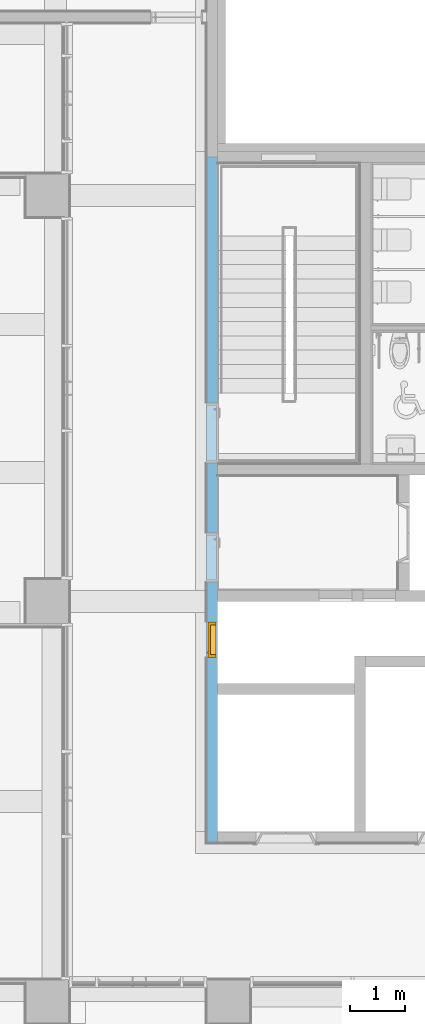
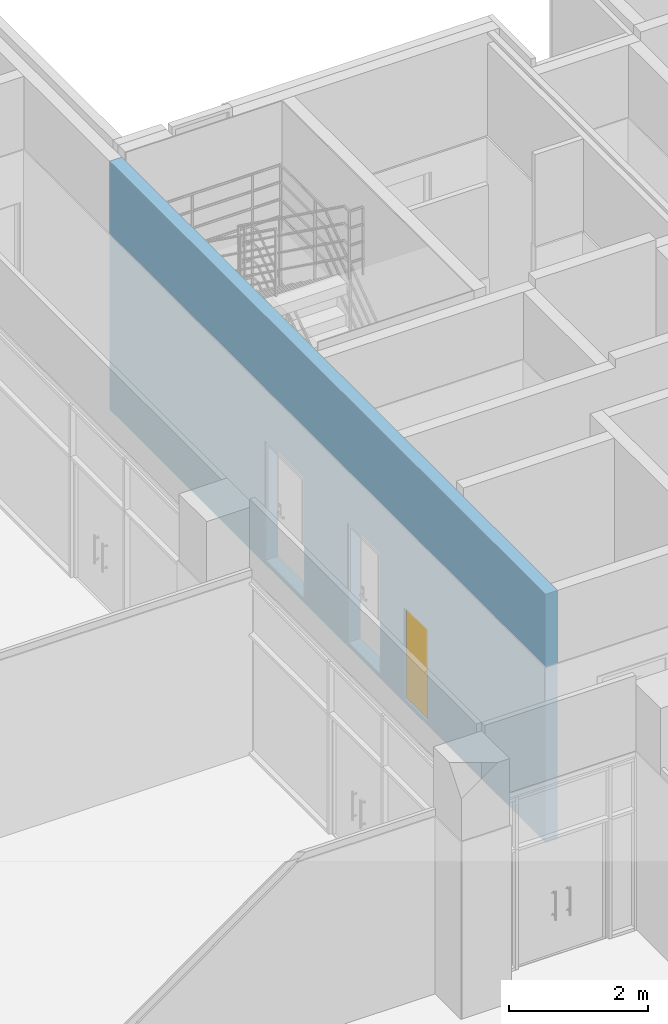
# One storey, part 54 of 74: 1 door, 3 openings, plus 1 element that does not belong to this part.
"""IFC2X3 building model written with IfcOpenShell, lengths in millimetres."""

from ifc_helpers import new_model, entity, si_unit, converted_unit, derived_unit, direction, frame, frame_2d, origin, place, context, subcontext, project, spatial, polyline, rectangle, extrude, clip, bounded_halfspace, faceted_brep, source, transform, mapped, material, material_list, layer, layer_set, layer_usage, type_object, type_shapes, element, fill, save


model = new_model("IFC2X3")

# Units and contexts
model_context = context("Model", 3, precision=0.01, world=origin(), true_north=direction((6.123031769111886e-17, 1.0)))
body_context = subcontext(model_context, "Body", "Model", "MODEL_VIEW")
ifc_project = project(units=[si_unit("LENGTHUNIT", "METRE", prefix="MILLI"), si_unit("AREAUNIT", "SQUARE_METRE"), si_unit("VOLUMEUNIT", "CUBIC_METRE"), converted_unit("PLANEANGLEUNIT", "DEGREE", entity("IfcRatioMeasure", 0.017453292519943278), si_unit("PLANEANGLEUNIT", "RADIAN"), dimensions=[0, 0, 0, 0, 0, 0, 0]), si_unit("MASSUNIT", "GRAM", prefix="KILO"), derived_unit("MASSDENSITYUNIT", [(si_unit("MASSUNIT", "GRAM", prefix="KILO"), 1), (si_unit("LENGTHUNIT", "METRE"), -3)]), derived_unit("MOMENTOFINERTIAUNIT", [(si_unit("LENGTHUNIT", "METRE"), 4)]), si_unit("TIMEUNIT", "SECOND"), si_unit("FREQUENCYUNIT", "HERTZ"), si_unit("THERMODYNAMICTEMPERATUREUNIT", "DEGREE_CELSIUS"), derived_unit("THERMALTRANSMITTANCEUNIT", [(si_unit("MASSUNIT", "GRAM", prefix="KILO"), 1), (si_unit("THERMODYNAMICTEMPERATUREUNIT", "KELVIN"), -1), (si_unit("TIMEUNIT", "SECOND"), -3)]), derived_unit("VOLUMETRICFLOWRATEUNIT", [(si_unit("LENGTHUNIT", "METRE"), 3), (si_unit("TIMEUNIT", "SECOND"), -1)]), derived_unit("MASSFLOWRATEUNIT", [(si_unit("MASSUNIT", "GRAM", prefix="KILO"), 1), (si_unit("TIMEUNIT", "SECOND"), -1)]), derived_unit("ROTATIONALFREQUENCYUNIT", [(si_unit("TIMEUNIT", "SECOND"), -1)]), si_unit("ELECTRICCURRENTUNIT", "AMPERE"), si_unit("ELECTRICVOLTAGEUNIT", "VOLT"), si_unit("POWERUNIT", "WATT"), si_unit("FORCEUNIT", "NEWTON", prefix="KILO"), si_unit("ILLUMINANCEUNIT", "LUX"), si_unit("LUMINOUSFLUXUNIT", "LUMEN"), si_unit("LUMINOUSINTENSITYUNIT", "CANDELA"), derived_unit("USERDEFINED", [(si_unit("MASSUNIT", "GRAM", prefix="KILO"), -1), (si_unit("LENGTHUNIT", "METRE"), -2), (si_unit("TIMEUNIT", "SECOND"), 3), (si_unit("LUMINOUSFLUXUNIT", "LUMEN"), 1)]), derived_unit("SOUNDPOWERUNIT", [(si_unit("MASSUNIT", "GRAM", prefix="KILO"), 1), (si_unit("LENGTHUNIT", "METRE"), 2), (si_unit("TIMEUNIT", "SECOND"), -3)]), derived_unit("SOUNDPRESSUREUNIT", [(si_unit("MASSUNIT", "GRAM", prefix="KILO"), 1), (si_unit("LENGTHUNIT", "METRE"), -1), (si_unit("TIMEUNIT", "SECOND"), -2)]), derived_unit("LINEARVELOCITYUNIT", [(si_unit("LENGTHUNIT", "METRE"), 1), (si_unit("TIMEUNIT", "SECOND"), -1)]), si_unit("PRESSUREUNIT", "PASCAL"), derived_unit("USERDEFINED", [(si_unit("LENGTHUNIT", "METRE"), -2), (si_unit("MASSUNIT", "GRAM", prefix="KILO"), 1), (si_unit("TIMEUNIT", "SECOND"), -2)]), derived_unit("LINEARFORCEUNIT", [(si_unit("MASSUNIT", "GRAM", prefix="KILO"), 1), (si_unit("LENGTHUNIT", "METRE"), 1), (si_unit("TIMEUNIT", "SECOND"), -2), (si_unit("LENGTHUNIT", "METRE"), -1)]), derived_unit("PLANARFORCEUNIT", [(si_unit("MASSUNIT", "GRAM", prefix="KILO"), 1), (si_unit("LENGTHUNIT", "METRE"), 1), (si_unit("TIMEUNIT", "SECOND"), -2), (si_unit("LENGTHUNIT", "METRE"), -2)])], contexts=[model_context])

# Site, building, storey
site_placement = place(None, frame((-14167.972527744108, -657.2125860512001, 0.0)))
site = spatial("IfcSite", under=ifc_project, at=site_placement, Name="Default", CompositionType="ELEMENT")
building_placement = place(site_placement, origin())
building = spatial("IfcBuilding", under=site, at=building_placement, Name="Sample Building", CompositionType="ELEMENT")
storey_placement = place(building_placement, frame((0.0, 0.0, 4800.0)))
storey = spatial("IfcBuildingStorey", under=building, at=storey_placement, Name="지상 2층", CompositionType="ELEMENT", Elevation=4800.000000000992)

# Wall, openings, door
ifc_material_1 = material(Name="KBIMS-콘크리트")
ifc_layer = layer(ifc_material_1, 200.0)
ifc_layer_set = layer_set([ifc_layer], Name="기본 벽:WA111-철근콘크리트구조 벽 200mm_CW1")
ifc_layer_usage = layer_usage(ifc_layer_set, "AXIS2", "NEGATIVE", 100.0)
wall_type = type_object("IfcWallType", Name="기본 벽:WA111-철근콘크리트구조 벽 200mm_CW1", PredefinedType="STANDARD", material=ifc_layer_set)
wall_placement = place(storey_placement, frame((30167.96376153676, 15553.30294707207, -1.9340006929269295e-09), z_axis=(0.0, 0.0, 1.0), x_axis=(0.0, 1.0, 0.0)))
wall = element("IfcWallStandardCase", 1, at=wall_placement, inside=storey, type_object=wall_type, material=ifc_layer_usage, Name="기본 벽:WA111-철근콘크리트구조 벽 200mm_CW1", ObjectType="기본 벽:WA111-철근콘크리트구조 벽 200mm_CW1", context=body_context, shape_type="Clipping", body=[
    clip(extrude(rectangle(XDim=12503.909360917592, YDim=200.00000000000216, at=frame_2d((6251.954680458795, -2.1671553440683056e-12), x_axis=(-1.0, 0.0))), origin(), (0.0, 0.0, 1.0), 4350.000000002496), bounded_halfspace(frame((6903.90936425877, -100.0, 4350.0), z_axis=(0.0, 0.0, -1.0), x_axis=(0.0, -1.0, 0.0)), True, frame((6903.90936425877, -100.0, 4350.0), z_axis=(0.0, 0.0, -1.0), x_axis=(0.0, -1.0, 0.0)), polyline([(0.0, 0.0), (0.0, 60960.0), (0.0, 701040.0), (0.0, 762000.0), (0.0, 2042160.0049346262), (0.0, 2043351.574226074), (0.0, 2104311.5742260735), (-60960.0, 2104311.574226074), (-60960.0, 2042159.9107361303), (-60960.0, 822959.9068200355), (-60960.0, 701039.9068200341), (-60960.0, -1706880.0), (0.0, -1706880.0), (0.0, 0.0)]))),
])
opening_1_placement = place(wall_placement, frame((5653.874678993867, 100.0, 80.0)))
element("IfcOpeningElement", 2, at=opening_1_placement, cuts=wall, Name="DR111-외여닫이문(철재, 일반):DR111-외여닫이문(철재, 일반) 900x2100mm:1", ObjectType="Opening", context=body_context, shape_type="SweptSolid", body=[
    extrude(rectangle(XDim=2099.999999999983, YDim=900.0000000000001, at=frame_2d((1049.999999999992, 450.00000000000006), x_axis=(1.0, 0.0))), frame((0.0, 0.0, 0.0), z_axis=(0.0, -1.0, 0.0), x_axis=(0.0, 0.0, 1.0)), (0.0, 0.0, 1.0), 200.0),
])
opening_2_placement = place(wall_placement, frame((8023.874680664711, 100.0, 80.0)))
element("IfcOpeningElement", 3, at=opening_2_placement, cuts=wall, Name="DR111-외여닫이문(철재, 일반):DR111-외여닫이문(철재, 일반) 1100x2100mm 2:1", ObjectType="Opening", context=body_context, shape_type="SweptSolid", body=[
    extrude(rectangle(XDim=2099.999999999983, YDim=1100.0, at=frame_2d((1049.9999999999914, 550.0), x_axis=(1.0, 0.0))), frame((0.0, 0.0, 0.0), z_axis=(0.0, -1.0, 0.0), x_axis=(0.0, 0.0, 1.0)), (0.0, 0.0, 1.0), 200.0),
])
opening_3_placement = place(wall_placement, frame((3378.8747316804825, -100.0, 80.0)))
opening_3 = element("IfcOpeningElement", 4, at=opening_3_placement, cuts=wall, Name="DR872-샤프트 점검구(스테인리스 스틸):DR872-샤프트 점검구(스테인리스 스틸)_650x1600:1", ObjectType="Opening", context=body_context, shape_type="SweptSolid", body=[
    extrude(rectangle(XDim=1600.0, YDim=649.9999999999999, at=frame_2d((800.0, 324.99999999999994), x_axis=(1.0, 0.0))), frame((0.0, 0.0, 0.0), z_axis=(0.0, 1.0, 0.0), x_axis=(0.0, 0.0, 1.0)), (0.0, 0.0, 1.0), 200.0),
])
ifc_material_2 = material(Name="KBIMS-스테인리스 스틸_도금")
ifc_material_list = material_list([ifc_material_2, ifc_material_2, ifc_material_2, ifc_material_2])
door_style = type_object("IfcDoorStyle", Name="DR872-샤프트 점검구(스테인리스 스틸):DR872-샤프트 점검구(스테인리스 스틸)_650x1600", ConstructionType="NOTDEFINED", OperationType="SINGLE_SWING_LEFT", ParameterTakesPrecedence=False, Sizeable=False, material=ifc_material_list)
shared_shape = source(origin(), body_context, "Body", "Brep", [
    faceted_brep([(105.0, 125.0, 782.6794919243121), (109.14213562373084, 125.0, 785.85786437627), (102.50000000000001, 125.0, 787.0096189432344), (98.88228567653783, 125.0, 785.5111126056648), (100.17638090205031, 125.0, 780.6814834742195), (105.60660171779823, 125.0, 789.3933982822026), (112.32050807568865, 125.0, 790.0), (107.99038105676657, 125.0, 792.5000000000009), (109.488887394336, 125.0, 796.1177143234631), (114.31851652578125, 125.0, 794.8236190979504), (110.0, 125.0, 800.0), (115.0, 125.0, 800.0), (109.48888739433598, 125.0, 803.8822856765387), (114.31851652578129, 125.0, 805.1763809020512), (107.99038105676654, 125.0, 807.5000000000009), (112.32050807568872, 125.0, 810.0), (105.60660171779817, 125.0, 810.6066017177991), (109.14213562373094, 125.0, 814.1421356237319), (102.49999999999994, 125.0, 812.9903810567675), (105.0, 125.0, 817.3205080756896), (98.88228567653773, 125.0, 814.4888873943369), (100.17638090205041, 125.0, 819.3185165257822), (95.0, 125.0, 815.0), (95.0, 125.0, 820.0), (91.11771432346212, 125.0, 814.4888873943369), (89.8236190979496, 125.0, 819.3185165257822), (87.49999999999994, 125.0, 812.9903810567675), (85.0, 125.0, 817.3205080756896), (84.39339828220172, 125.0, 810.6066017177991), (80.85786437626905, 125.0, 814.142135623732), (82.00961894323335, 125.0, 807.5000000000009), (77.67949192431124, 125.0, 810.0), (75.6814834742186, 125.0, 805.1763809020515), (80.51111260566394, 125.0, 803.8822856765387), (75.0, 125.0, 800.0), (80.0, 125.0, 800.0), (75.68148347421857, 125.0, 794.8236190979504), (80.51111260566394, 125.0, 796.117714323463), (77.67949192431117, 125.0, 790.0), (82.00961894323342, 125.0, 792.5000000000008), (80.85786437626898, 125.0, 785.85786437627), (84.39339828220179, 125.0, 789.3933982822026), (85.0, 125.0, 782.6794919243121), (87.50000000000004, 125.0, 787.0096189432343), (89.8236190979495, 125.0, 780.6814834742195), (91.11771432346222, 125.0, 785.5111126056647), (95.0, 125.0, 780.0), (95.0, 125.0, 785.0), (105.0, 130.0, 817.3205080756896), (109.14213562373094, 130.0, 814.1421356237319), (102.49999999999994, 130.0, 812.9903810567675), (98.88228567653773, 130.0, 814.4888873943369), (100.17638090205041, 130.0, 819.3185165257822), (105.60660171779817, 130.0, 810.6066017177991), (112.32050807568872, 130.0, 810.0), (107.99038105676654, 130.0, 807.5000000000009), (109.48888739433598, 130.0, 803.8822856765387), (114.31851652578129, 130.0, 805.1763809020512), (110.0, 130.0, 800.0), (115.0, 130.0, 800.0), (109.488887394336, 130.0, 796.1177143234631), (114.31851652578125, 130.0, 794.8236190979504), (107.99038105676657, 130.0, 792.5000000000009), (112.32050807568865, 130.0, 790.0), (105.60660171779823, 130.0, 789.3933982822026), (109.14213562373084, 130.0, 785.85786437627), (102.50000000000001, 130.0, 787.0096189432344), (105.0, 130.0, 782.6794919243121), (98.88228567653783, 130.0, 785.5111126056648), (100.17638090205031, 130.0, 780.6814834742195), (95.0, 130.0, 785.0), (95.0, 130.0, 780.0), (91.11771432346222, 130.0, 785.5111126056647), (89.8236190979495, 130.0, 780.6814834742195), (87.50000000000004, 130.0, 787.0096189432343), (85.0, 130.0, 782.6794919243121), (84.39339828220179, 130.0, 789.3933982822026), (80.85786437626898, 130.0, 785.85786437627), (82.00961894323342, 130.0, 792.5000000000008), (77.67949192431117, 130.0, 790.0), (75.68148347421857, 130.0, 794.8236190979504), (80.51111260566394, 130.0, 796.117714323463), (75.0, 130.0, 800.0), (80.0, 130.0, 800.0), (75.6814834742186, 130.0, 805.1763809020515), (80.51111260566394, 130.0, 803.8822856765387), (77.67949192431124, 130.0, 810.0), (82.00961894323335, 130.0, 807.5000000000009), (80.85786437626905, 130.0, 814.142135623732), (84.39339828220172, 130.0, 810.6066017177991), (85.0, 130.0, 817.3205080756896), (87.49999999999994, 130.0, 812.9903810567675), (89.8236190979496, 130.0, 819.3185165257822), (91.11771432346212, 130.0, 814.4888873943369), (95.0, 130.0, 820.0), (95.0, 130.0, 815.0)], [[[0, 1, 2]], [[0, 2, 3]], [[3, 4, 0]], [[2, 1, 5]], [[6, 5, 1]], [[7, 5, 6]], [[8, 7, 6]], [[8, 6, 9]], [[8, 9, 10]], [[10, 9, 11]], [[12, 10, 11]], [[12, 11, 13]], [[14, 12, 13]], [[14, 13, 15]], [[16, 14, 15]], [[15, 17, 16]], [[17, 18, 16]], [[18, 17, 19]], [[18, 19, 20]], [[21, 20, 19]], [[20, 21, 22]], [[22, 21, 23]], [[23, 24, 22]], [[24, 23, 25]], [[24, 25, 26]], [[27, 26, 25]], [[27, 28, 26]], [[27, 29, 28]], [[30, 28, 29]], [[31, 30, 29]], [[32, 30, 31]], [[33, 30, 32]], [[33, 32, 34]], [[34, 35, 33]], [[36, 35, 34]], [[36, 37, 35]], [[37, 36, 38]], [[39, 37, 38]], [[39, 38, 40]], [[39, 40, 41]], [[40, 42, 41]], [[41, 42, 43]], [[43, 42, 44]], [[44, 45, 43]], [[46, 45, 44]], [[4, 47, 46]], [[45, 46, 47]], [[4, 3, 47]], [[48, 49, 50]], [[48, 50, 51]], [[51, 52, 48]], [[50, 49, 53]], [[54, 53, 49]], [[55, 53, 54]], [[56, 55, 54]], [[56, 54, 57]], [[56, 57, 58]], [[58, 57, 59]], [[60, 58, 59]], [[60, 59, 61]], [[62, 60, 61]], [[62, 61, 63]], [[64, 62, 63]], [[63, 65, 64]], [[65, 66, 64]], [[66, 65, 67]], [[66, 67, 68]], [[69, 68, 67]], [[68, 69, 70]], [[70, 69, 71]], [[71, 72, 70]], [[72, 71, 73]], [[72, 73, 74]], [[75, 74, 73]], [[75, 76, 74]], [[75, 77, 76]], [[78, 76, 77]], [[79, 78, 77]], [[80, 78, 79]], [[81, 78, 80]], [[81, 80, 82]], [[82, 83, 81]], [[84, 83, 82]], [[84, 85, 83]], [[85, 84, 86]], [[87, 85, 86]], [[87, 86, 88]], [[87, 88, 89]], [[88, 90, 89]], [[89, 90, 91]], [[91, 90, 92]], [[92, 93, 91]], [[94, 93, 92]], [[52, 95, 94]], [[93, 94, 95]], [[52, 51, 95]], [[10, 58, 60, 8]], [[8, 60, 62, 7]], [[2, 5, 64, 66]], [[62, 64, 5, 7]], [[3, 2, 66, 68]], [[70, 47, 3, 68]], [[45, 72, 74, 43]], [[43, 74, 76, 41]], [[37, 39, 78, 81]], [[76, 78, 39, 41]], [[35, 37, 81, 83]], [[45, 47, 70, 72]], [[35, 83, 85, 33]], [[33, 85, 87, 30]], [[26, 28, 89, 91]], [[87, 89, 28, 30]], [[24, 26, 91, 93]], [[95, 22, 24, 93]], [[20, 51, 50, 18]], [[18, 50, 53, 16]], [[12, 14, 55, 56]], [[53, 55, 14, 16]], [[10, 12, 56, 58]], [[20, 22, 95, 51]], [[57, 13, 11, 59]], [[54, 15, 13, 57]], [[19, 17, 49, 48]], [[54, 49, 17, 15]], [[21, 19, 48, 52]], [[23, 21, 52, 94]], [[92, 25, 23, 94]], [[90, 27, 25, 92]], [[31, 29, 88, 86]], [[90, 88, 29, 27]], [[32, 31, 86, 84]], [[34, 32, 84, 82]], [[80, 36, 34, 82]], [[79, 38, 36, 80]], [[42, 40, 77, 75]], [[79, 77, 40, 38]], [[44, 42, 75, 73]], [[46, 44, 73, 71]], [[69, 4, 46, 71]], [[67, 0, 4, 69]], [[6, 1, 65, 63]], [[67, 65, 1, 0]], [[9, 6, 63, 61]], [[11, 9, 61, 59]]]),
    faceted_brep([(85.0, 180.0, 782.6794919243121), (80.85786437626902, 180.0, 785.85786437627), (87.4999999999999, 180.0, 787.0096189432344), (91.11771432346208, 180.0, 785.5111126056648), (89.82361909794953, 180.0, 780.6814834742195), (84.39339828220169, 180.0, 789.3933982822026), (77.6794919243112, 180.0, 790.0), (82.00961894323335, 180.0, 792.5000000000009), (80.51111260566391, 180.0, 796.1177143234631), (75.6814834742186, 180.0, 794.8236190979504), (80.0, 180.0, 800.0), (75.0, 180.0, 800.0), (80.51111260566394, 180.0, 803.8822856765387), (75.68148347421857, 180.0, 805.1763809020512), (82.00961894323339, 180.0, 807.5000000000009), (77.67949192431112, 180.0, 810.0), (84.39339828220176, 180.0, 810.6066017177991), (80.85786437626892, 180.0, 814.1421356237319), (87.49999999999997, 180.0, 812.9903810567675), (85.0, 180.0, 817.3205080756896), (91.11771432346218, 180.0, 814.4888873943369), (89.82361909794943, 180.0, 819.3185165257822), (95.0, 180.0, 815.0), (95.0, 180.0, 820.0), (98.8822856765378, 180.0, 814.4888873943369), (100.17638090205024, 180.0, 819.3185165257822), (102.49999999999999, 180.0, 812.9903810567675), (105.0, 180.0, 817.3205080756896), (105.6066017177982, 180.0, 810.6066017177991), (109.1421356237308, 180.0, 814.142135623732), (107.99038105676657, 180.0, 807.5000000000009), (112.32050807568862, 180.0, 810.0), (114.31851652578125, 180.0, 805.1763809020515), (109.48888739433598, 180.0, 803.8822856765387), (115.0, 180.0, 800.0), (110.0, 180.0, 800.0), (114.31851652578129, 180.0, 794.8236190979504), (109.48888739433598, 180.0, 796.117714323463), (112.32050807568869, 180.0, 790.0), (107.9903810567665, 180.0, 792.5000000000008), (109.14213562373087, 180.0, 785.85786437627), (105.60660171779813, 180.0, 789.3933982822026), (105.0, 180.0, 782.6794919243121), (102.49999999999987, 180.0, 787.0096189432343), (100.17638090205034, 180.0, 780.6814834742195), (98.8822856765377, 180.0, 785.5111126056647), (95.0, 180.0, 780.0), (95.0, 180.0, 785.0), (85.0, 175.0, 817.3205080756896), (80.85786437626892, 175.0, 814.1421356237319), (87.49999999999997, 175.0, 812.9903810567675), (91.11771432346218, 175.0, 814.4888873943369), (89.82361909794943, 175.0, 819.3185165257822), (84.39339828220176, 175.0, 810.6066017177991), (77.67949192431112, 175.0, 810.0), (82.00961894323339, 175.0, 807.5000000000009), (80.51111260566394, 175.0, 803.8822856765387), (75.68148347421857, 175.0, 805.1763809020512), (80.0, 175.0, 800.0), (75.0, 175.0, 800.0), (80.51111260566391, 175.0, 796.1177143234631), (75.6814834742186, 175.0, 794.8236190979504), (82.00961894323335, 175.0, 792.5000000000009), (77.6794919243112, 175.0, 790.0), (84.39339828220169, 175.0, 789.3933982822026), (80.85786437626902, 175.0, 785.85786437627), (87.4999999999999, 175.0, 787.0096189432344), (85.0, 175.0, 782.6794919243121), (91.11771432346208, 175.0, 785.5111126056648), (89.82361909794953, 175.0, 780.6814834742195), (95.0, 175.0, 785.0), (95.0, 175.0, 780.0), (98.8822856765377, 175.0, 785.5111126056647), (100.17638090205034, 175.0, 780.6814834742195), (102.49999999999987, 175.0, 787.0096189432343), (105.0, 175.0, 782.6794919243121), (105.60660171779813, 175.0, 789.3933982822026), (109.14213562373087, 175.0, 785.85786437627), (107.9903810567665, 175.0, 792.5000000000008), (112.32050807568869, 175.0, 790.0), (114.31851652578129, 175.0, 794.8236190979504), (109.48888739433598, 175.0, 796.117714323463), (115.0, 175.0, 800.0), (110.0, 175.0, 800.0), (114.31851652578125, 175.0, 805.1763809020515), (109.48888739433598, 175.0, 803.8822856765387), (112.32050807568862, 175.0, 810.0), (107.99038105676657, 175.0, 807.5000000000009), (109.1421356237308, 175.0, 814.142135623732), (105.6066017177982, 175.0, 810.6066017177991), (105.0, 175.0, 817.3205080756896), (102.49999999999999, 175.0, 812.9903810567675), (100.17638090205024, 175.0, 819.3185165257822), (98.8822856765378, 175.0, 814.4888873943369), (95.0, 175.0, 820.0), (95.0, 175.0, 815.0)], [[[0, 1, 2]], [[0, 2, 3]], [[3, 4, 0]], [[2, 1, 5]], [[6, 5, 1]], [[7, 5, 6]], [[8, 7, 6]], [[8, 6, 9]], [[8, 9, 10]], [[10, 9, 11]], [[12, 10, 11]], [[12, 11, 13]], [[14, 12, 13]], [[14, 13, 15]], [[16, 14, 15]], [[15, 17, 16]], [[17, 18, 16]], [[18, 17, 19]], [[18, 19, 20]], [[21, 20, 19]], [[20, 21, 22]], [[22, 21, 23]], [[23, 24, 22]], [[24, 23, 25]], [[24, 25, 26]], [[27, 26, 25]], [[27, 28, 26]], [[27, 29, 28]], [[30, 28, 29]], [[31, 30, 29]], [[32, 30, 31]], [[33, 30, 32]], [[33, 32, 34]], [[34, 35, 33]], [[36, 35, 34]], [[36, 37, 35]], [[37, 36, 38]], [[39, 37, 38]], [[39, 38, 40]], [[39, 40, 41]], [[40, 42, 41]], [[41, 42, 43]], [[43, 42, 44]], [[44, 45, 43]], [[46, 45, 44]], [[4, 47, 46]], [[45, 46, 47]], [[4, 3, 47]], [[48, 49, 50]], [[48, 50, 51]], [[51, 52, 48]], [[50, 49, 53]], [[54, 53, 49]], [[55, 53, 54]], [[56, 55, 54]], [[56, 54, 57]], [[56, 57, 58]], [[58, 57, 59]], [[60, 58, 59]], [[60, 59, 61]], [[62, 60, 61]], [[62, 61, 63]], [[64, 62, 63]], [[63, 65, 64]], [[65, 66, 64]], [[66, 65, 67]], [[66, 67, 68]], [[69, 68, 67]], [[68, 69, 70]], [[70, 69, 71]], [[71, 72, 70]], [[72, 71, 73]], [[72, 73, 74]], [[75, 74, 73]], [[75, 76, 74]], [[75, 77, 76]], [[78, 76, 77]], [[79, 78, 77]], [[80, 78, 79]], [[81, 78, 80]], [[81, 80, 82]], [[82, 83, 81]], [[84, 83, 82]], [[84, 85, 83]], [[85, 84, 86]], [[87, 85, 86]], [[87, 86, 88]], [[87, 88, 89]], [[88, 90, 89]], [[89, 90, 91]], [[91, 90, 92]], [[92, 93, 91]], [[94, 93, 92]], [[52, 95, 94]], [[93, 94, 95]], [[52, 51, 95]], [[35, 83, 85, 33]], [[33, 85, 87, 30]], [[26, 28, 89, 91]], [[87, 89, 28, 30]], [[24, 26, 91, 93]], [[95, 22, 24, 93]], [[20, 51, 50, 18]], [[18, 50, 53, 16]], [[12, 14, 55, 56]], [[53, 55, 14, 16]], [[10, 12, 56, 58]], [[20, 22, 95, 51]], [[10, 58, 60, 8]], [[8, 60, 62, 7]], [[2, 5, 64, 66]], [[62, 64, 5, 7]], [[3, 2, 66, 68]], [[70, 47, 3, 68]], [[45, 72, 74, 43]], [[43, 74, 76, 41]], [[37, 39, 78, 81]], [[76, 78, 39, 41]], [[35, 37, 81, 83]], [[45, 47, 70, 72]], [[80, 36, 34, 82]], [[79, 38, 36, 80]], [[42, 40, 77, 75]], [[79, 77, 40, 38]], [[44, 42, 75, 73]], [[46, 44, 73, 71]], [[69, 4, 46, 71]], [[67, 0, 4, 69]], [[6, 1, 65, 63]], [[67, 65, 1, 0]], [[9, 6, 63, 61]], [[11, 9, 61, 59]], [[57, 13, 11, 59]], [[54, 15, 13, 57]], [[19, 17, 49, 48]], [[54, 49, 17, 15]], [[21, 19, 48, 52]], [[23, 21, 52, 94]], [[92, 25, 23, 94]], [[90, 27, 25, 92]], [[31, 29, 88, 86]], [[90, 88, 29, 27]], [[32, 31, 86, 84]], [[34, 32, 84, 82]]]),
    faceted_brep([(620.0, 175.0, 1570.0), (30.0, 175.0, 1570.0), (30.0, 130.0, 1570.0), (620.0, 130.0, 1570.0), (620.0, 175.0, 30.0), (620.0, 130.0, 30.0), (30.0, 130.0, 30.0), (30.0, 175.0, 30.0)], [[[0, 1, 2, 3]], [[4, 5, 6, 7]], [[1, 0, 4, 7]], [[2, 1, 7, 6]], [[3, 2, 6, 5]], [[0, 3, 5, 4]]]),
    faceted_brep([(30.0, 130.0, 1570.0), (30.0, 175.0, 1570.0), (620.0, 175.0, 1570.0), (620.0, 130.0, 1570.0), (60.0, 25.0, 1540.0), (60.0, 130.0, 1540.0), (590.0, 130.0, 1540.0), (590.0, 25.0, 1540.0), (0.0, 175.0, 1600.0), (0.0, 25.0, 1600.0), (650.0, 25.0, 1600.0), (650.0, 175.0, 1600.0), (620.0, 175.0, 30.0), (620.0, 130.0, 30.0), (590.0, 130.0, 60.0), (590.0, 25.0, 60.0), (650.0, 25.0, 0.0), (650.0, 175.0, 0.0), (30.0, 175.0, 30.0), (30.0, 130.0, 30.0), (60.0, 130.0, 60.0), (60.0, 25.0, 60.0), (0.0, 25.0, 0.0), (0.0, 175.0, 0.0)], [[[0, 1, 2, 3]], [[4, 5, 6, 7]], [[8, 9, 10, 11]], [[3, 2, 12, 13]], [[7, 6, 14, 15]], [[11, 10, 16, 17]], [[13, 12, 18, 19]], [[15, 14, 20, 21]], [[17, 16, 22, 23]], [[19, 18, 1, 0]], [[3, 13, 19, 0], [5, 20, 14, 6]], [[21, 20, 5, 4]], [[7, 15, 21, 4], [9, 22, 16, 10]], [[23, 22, 9, 8]], [[11, 17, 23, 8], [1, 18, 12, 2]]], outer=[[True], [True], [True], [True], [True], [True], [True], [True], [True], [True], [True, False], [True], [False, True], [True], [True, False]]),
])
type_shapes(door_style, [shared_shape])
door_placement = place(opening_3_placement, frame((0.0, 0.0, 1.9335857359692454e-09)))
door = element("IfcDoor", 5, at=door_placement, inside=storey, type_object=door_style, material=ifc_material_2, Name="DR872-샤프트 점검구(스테인리스 스틸):DR872-샤프트 점검구(스테인리스 스틸)_650x1600", ObjectType="DR872-샤프트 점검구(스테인리스 스틸):DR872-샤프트 점검구(스테인리스 스틸)_650x1600", OverallHeight=1600.0, OverallWidth=649.9999999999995, context=body_context, shape_type="MappedRepresentation", body=[
    mapped(shared_shape, transform((0.0, 0.0, 0.0), scale=1.0)),
])
fill(opening_3, door)

save(model, "model.ifc")
